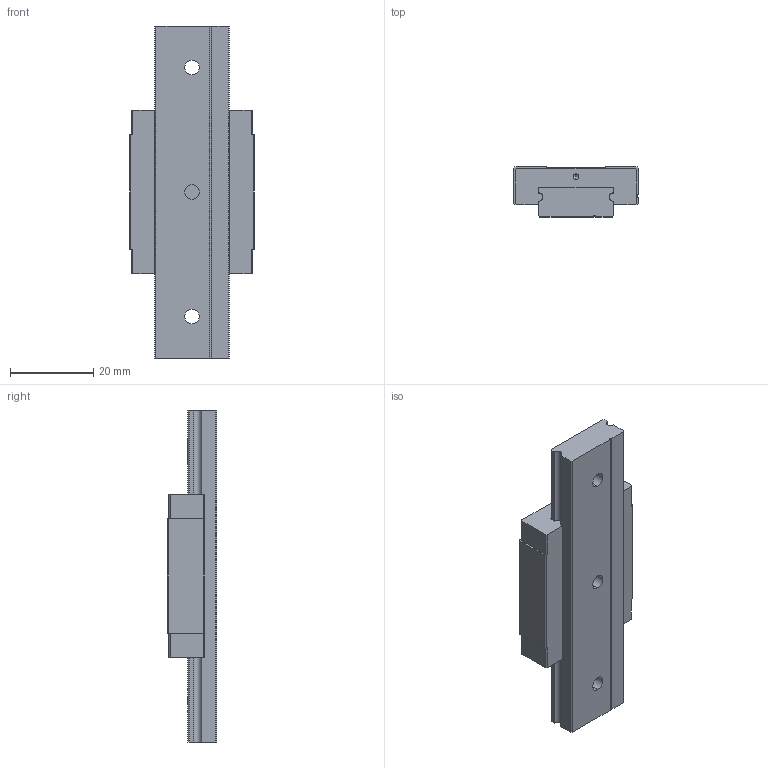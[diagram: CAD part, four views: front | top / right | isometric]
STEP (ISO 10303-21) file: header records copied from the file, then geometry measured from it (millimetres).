
FILE_DESCRIPTION (( 'STEP AP214' ), '1' );
FILE_NAME ('7.1061 Lineaarikelkka MTW9C.STEP', '2026-03-16T07:50:19', ( '' ), ( '' ), 'SwSTEP 2.0', 'SolidWorks 2025', '' );
FILE_SCHEMA (( 'AUTOMOTIVE_DESIGN' ));
Length unit declared in the file: millimetre
Products named in the file (1): 7.1061 Lineaarikelkka MTW9C
Bounding box: 30 x 12 x 80 mm (x, y, z)
Volume: 16949.7 mm3; surface area: 8664.8 mm2
Topology: 2 solids, 2 shells, 200 faces, 533 edges, 346 vertices
Faces by surface type: plane 125, cylinder 33, bspline 30, cone 12
Entity records: 10361 total; most frequent: CARTESIAN_POINT 3334, ORIENTED_EDGE 1042, DIRECTION 871, EDGE_CURVE 521, LINE 393, VECTOR 393, VERTEX_POINT 346, AXIS2_PLACEMENT_3D 239
